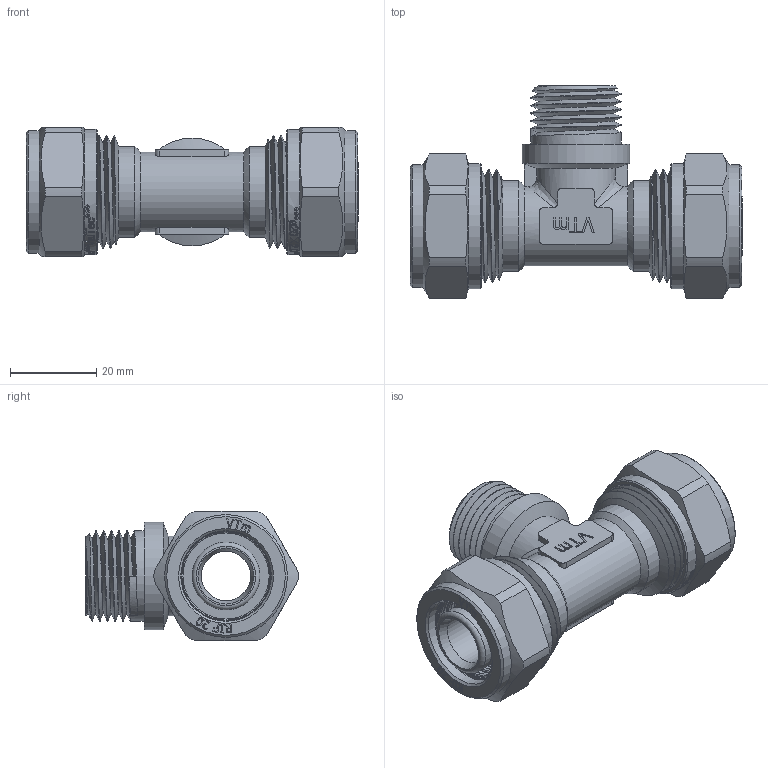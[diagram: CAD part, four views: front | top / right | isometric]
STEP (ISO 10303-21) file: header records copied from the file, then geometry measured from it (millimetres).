
FILE_DESCRIPTION(/* description */ (''),/* implementation_level */ '2;1');
FILE_NAME(/* name */ 'F:\Артём\00000\Работа удаленка\Обжимные фитинги\VTm.333.N.200420.stp',/* time_stamp */ '2020-07-30T10:02:24+03:00',/* author */ ('almis'),/* organization */ (''),/* preprocessor_version */ 'ST-DEVELOPER v18',/* originating_system */ 'Autodesk Inventor 2020',/* authorisation */ '');
FILE_SCHEMA (('AUTOMOTIVE_DESIGN { 1 0 10303 214 3 1 1 }'));
Length unit declared in the file: millimetre
Products named in the file (1): VTm.332.N.200420
Bounding box: 77 x 49.22 x 30 mm (x, y, z)
Volume: 29387.2 mm3; surface area: 22695.2 mm2
Topology: 2 solids, 3 shells, 1395 faces, 3914 edges, 2634 vertices
Faces by surface type: bspline 722, plane 405, cylinder 188, torus 44, cone 36
Full cylindrical faces by diameter (mm): 11.5 x2, 11.622 x1, 13.4 x4, 14.5 x1, 15.75 x8, 17.4 x6, 19.986 x8, 20.2 x2, 20.728 x10, 21 x9, 22.8 x6, 23.201 x2, 24.2 x4, 25 x1, 26.4 x4, 28.5 x2, 29 x2
Entity records: 61953 total; most frequent: CARTESIAN_POINT 30533, ORIENTED_EDGE 7834, DIRECTION 4294, EDGE_CURVE 3917, VERTEX_POINT 2637, LINE 1684, VECTOR 1684, B_SPLINE_CURVE_WITH_KNOTS 1571
